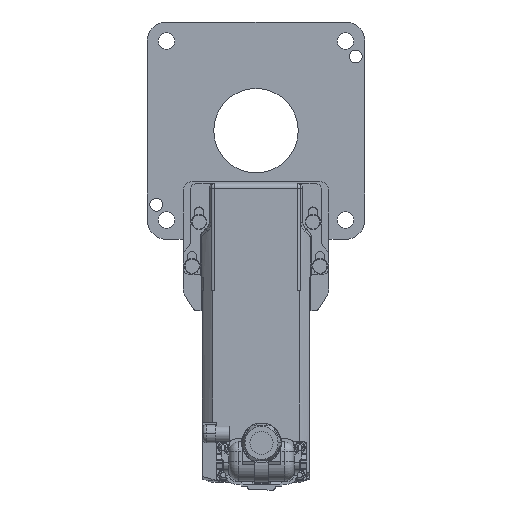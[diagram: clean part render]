
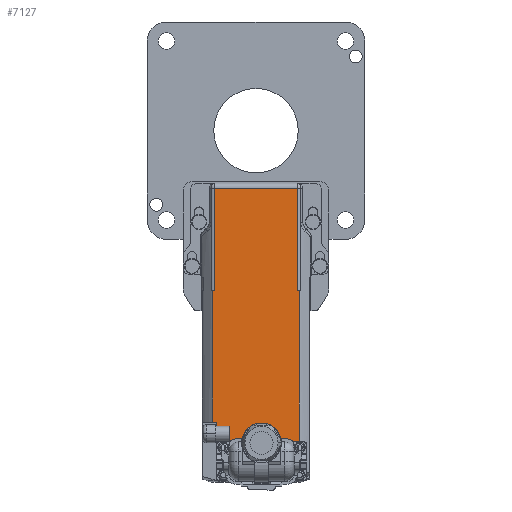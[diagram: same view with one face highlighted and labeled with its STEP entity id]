
A CAD part, front view. The second image highlights one B-rep face of the part: STEP entity #7127.
In plain terms, the highlighted planar face has unit normal (0, -1, 0).
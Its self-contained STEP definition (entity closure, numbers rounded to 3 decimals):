
#97 = ORIENTED_EDGE ( 'NONE', *, *, #7313, .F. ) ;
#338 = CARTESIAN_POINT ( 'NONE',  ( 16.971, -21., 20. ) ) ;
#356 = EDGE_CURVE ( 'NONE', #6993, #22858, #17099, .T. ) ;
#518 = VECTOR ( 'NONE', #25990, 1000. ) ;
#723 = EDGE_CURVE ( 'NONE', #5544, #14785, #12863, .T. ) ;
#1201 = EDGE_CURVE ( 'NONE', #22840, #3383, #8076, .T. ) ;
#1691 = CARTESIAN_POINT ( 'NONE',  ( -15.4, -21., -51.5 ) ) ;
#1833 = CARTESIAN_POINT ( 'NONE',  ( -10.4, -21., -53.05 ) ) ;
#1969 = CARTESIAN_POINT ( 'NONE',  ( -16.971, -21., 20. ) ) ;
#2092 = CARTESIAN_POINT ( 'NONE',  ( -16.971, -21., -51.5 ) ) ;
#2158 = LINE ( 'NONE', #6476, #23227 ) ;
#2191 = VECTOR ( 'NONE', #12323, 1000. ) ;
#2660 = VECTOR ( 'NONE', #3245, 1000. ) ;
#3245 = DIRECTION ( 'NONE',  ( -0.707, 0., 0.707 ) ) ;
#3263 = CARTESIAN_POINT ( 'NONE',  ( -15.4, -21., -53.05 ) ) ;
#3364 = EDGE_CURVE ( 'NONE', #17647, #19740, #21476, .T. ) ;
#3383 = VERTEX_POINT ( 'NONE', #9398 ) ;
#3802 = VECTOR ( 'NONE', #5980, 1000. ) ;
#3803 = LINE ( 'NONE', #4189, #518 ) ;
#4189 = CARTESIAN_POINT ( 'NONE',  ( 21., -21., 0. ) ) ;
#4240 = CARTESIAN_POINT ( 'NONE',  ( 21., -21., -59.35 ) ) ;
#4586 = VERTEX_POINT ( 'NONE', #9562 ) ;
#5475 = LINE ( 'NONE', #15315, #2660 ) ;
#5544 = VERTEX_POINT ( 'NONE', #23763 ) ;
#5699 = ORIENTED_EDGE ( 'NONE', *, *, #723, .F. ) ;
#5980 = DIRECTION ( 'NONE',  ( 0., 0., -1. ) ) ;
#6056 = CARTESIAN_POINT ( 'NONE',  ( -16.248, -21., 21.9 ) ) ;
#6364 = DIRECTION ( 'NONE',  ( -1., 0., 0. ) ) ;
#6391 = DIRECTION ( 'NONE',  ( 0., -1., 0. ) ) ;
#6476 = CARTESIAN_POINT ( 'NONE',  ( 16.248, -21., 21.9 ) ) ;
#6651 = PLANE ( 'NONE',  #7304 ) ;
#6751 = CARTESIAN_POINT ( 'NONE',  ( -15.4, -21., -51.5 ) ) ;
#6834 = CARTESIAN_POINT ( 'NONE',  ( 21., -21., 0. ) ) ;
#6993 = VERTEX_POINT ( 'NONE', #1691 ) ;
#7127 = ADVANCED_FACE ( 'NONE', ( #8741 ), #6651, .T. ) ;
#7128 = CARTESIAN_POINT ( 'NONE',  ( -15.4, -21., -51.5 ) ) ;
#7304 = AXIS2_PLACEMENT_3D ( 'NONE', #12429, #6391, #16756 ) ;
#7313 = EDGE_CURVE ( 'NONE', #16111, #5544, #5475, .T. ) ;
#7351 = VECTOR ( 'NONE', #7567, 1000. ) ;
#7567 = DIRECTION ( 'NONE',  ( -1., 0., 0. ) ) ;
#7932 = CARTESIAN_POINT ( 'NONE',  ( 16.248, -21., 40. ) ) ;
#8015 = DIRECTION ( 'NONE',  ( 0., 0., -1. ) ) ;
#8076 = LINE ( 'NONE', #338, #3802 ) ;
#8096 = EDGE_CURVE ( 'NONE', #3383, #16111, #12613, .T. ) ;
#8741 = FACE_OUTER_BOUND ( 'NONE', #9147, .T. ) ;
#9147 = EDGE_LOOP ( 'NONE', ( #10936, #18126, #22752, #25987, #17522, #15131, #22760, #15362, #5699, #97, #14499, #22547, #18706 ) ) ;
#9314 = VECTOR ( 'NONE', #18908, 1000. ) ;
#9398 = CARTESIAN_POINT ( 'NONE',  ( 16.971, -21., -59.35 ) ) ;
#9562 = CARTESIAN_POINT ( 'NONE',  ( -16.248, -21., 0. ) ) ;
#10890 = DIRECTION ( 'NONE',  ( 0., 0., 1. ) ) ;
#10936 = ORIENTED_EDGE ( 'NONE', *, *, #17798, .T. ) ;
#12240 = DIRECTION ( 'NONE',  ( -1., 0., 0. ) ) ;
#12323 = DIRECTION ( 'NONE',  ( 0., 0., 1. ) ) ;
#12383 = DIRECTION ( 'NONE',  ( 0., 0., 1. ) ) ;
#12429 = CARTESIAN_POINT ( 'NONE',  ( 0., -21., 21.9 ) ) ;
#12613 = LINE ( 'NONE', #4240, #22083 ) ;
#12650 = LINE ( 'NONE', #6751, #15035 ) ;
#12863 = LINE ( 'NONE', #20871, #18552 ) ;
#13809 = DIRECTION ( 'NONE',  ( 1., 0., 0. ) ) ;
#14214 = EDGE_CURVE ( 'NONE', #6993, #22634, #12650, .T. ) ;
#14499 = ORIENTED_EDGE ( 'NONE', *, *, #8096, .F. ) ;
#14785 = VERTEX_POINT ( 'NONE', #1833 ) ;
#15035 = VECTOR ( 'NONE', #6364, 1000. ) ;
#15123 = DIRECTION ( 'NONE',  ( 0., 0., -1. ) ) ;
#15131 = ORIENTED_EDGE ( 'NONE', *, *, #14214, .F. ) ;
#15315 = CARTESIAN_POINT ( 'NONE',  ( -9.4, -21., -59.35 ) ) ;
#15362 = ORIENTED_EDGE ( 'NONE', *, *, #18161, .T. ) ;
#15521 = LINE ( 'NONE', #23528, #16533 ) ;
#15955 = VECTOR ( 'NONE', #15123, 1000. ) ;
#16111 = VERTEX_POINT ( 'NONE', #23780 ) ;
#16533 = VECTOR ( 'NONE', #13809, 1000. ) ;
#16756 = DIRECTION ( 'NONE',  ( 1., 0., 0. ) ) ;
#17099 = LINE ( 'NONE', #7128, #15955 ) ;
#17298 = CARTESIAN_POINT ( 'NONE',  ( 16.971, -21., 0. ) ) ;
#17522 = ORIENTED_EDGE ( 'NONE', *, *, #23839, .F. ) ;
#17646 = CARTESIAN_POINT ( 'NONE',  ( 16.248, -21., 0. ) ) ;
#17647 = VERTEX_POINT ( 'NONE', #7932 ) ;
#17798 = EDGE_CURVE ( 'NONE', #24615, #17647, #2158, .T. ) ;
#17999 = LINE ( 'NONE', #6056, #21834 ) ;
#18126 = ORIENTED_EDGE ( 'NONE', *, *, #3364, .T. ) ;
#18161 = EDGE_CURVE ( 'NONE', #22858, #14785, #15521, .T. ) ;
#18238 = LINE ( 'NONE', #1969, #2191 ) ;
#18552 = VECTOR ( 'NONE', #10890, 1000. ) ;
#18706 = ORIENTED_EDGE ( 'NONE', *, *, #23615, .T. ) ;
#18908 = DIRECTION ( 'NONE',  ( -1., 0., 0. ) ) ;
#19740 = VERTEX_POINT ( 'NONE', #22166 ) ;
#20512 = CARTESIAN_POINT ( 'NONE',  ( -16.971, -21., 0. ) ) ;
#20871 = CARTESIAN_POINT ( 'NONE',  ( -10.4, -21., -75. ) ) ;
#21098 = EDGE_CURVE ( 'NONE', #19740, #4586, #17999, .T. ) ;
#21476 = LINE ( 'NONE', #25291, #7351 ) ;
#21834 = VECTOR ( 'NONE', #8015, 1000. ) ;
#21845 = VERTEX_POINT ( 'NONE', #20512 ) ;
#22083 = VECTOR ( 'NONE', #12240, 1000. ) ;
#22166 = CARTESIAN_POINT ( 'NONE',  ( -16.248, -21., 40. ) ) ;
#22547 = ORIENTED_EDGE ( 'NONE', *, *, #1201, .F. ) ;
#22581 = EDGE_CURVE ( 'NONE', #4586, #21845, #3803, .T. ) ;
#22634 = VERTEX_POINT ( 'NONE', #2092 ) ;
#22752 = ORIENTED_EDGE ( 'NONE', *, *, #21098, .T. ) ;
#22760 = ORIENTED_EDGE ( 'NONE', *, *, #356, .T. ) ;
#22840 = VERTEX_POINT ( 'NONE', #17298 ) ;
#22858 = VERTEX_POINT ( 'NONE', #3263 ) ;
#23227 = VECTOR ( 'NONE', #12383, 1000. ) ;
#23528 = CARTESIAN_POINT ( 'NONE',  ( 21., -21., -53.05 ) ) ;
#23615 = EDGE_CURVE ( 'NONE', #22840, #24615, #24817, .T. ) ;
#23763 = CARTESIAN_POINT ( 'NONE',  ( -10.4, -21., -58.35 ) ) ;
#23780 = CARTESIAN_POINT ( 'NONE',  ( -9.4, -21., -59.35 ) ) ;
#23839 = EDGE_CURVE ( 'NONE', #22634, #21845, #18238, .T. ) ;
#24615 = VERTEX_POINT ( 'NONE', #17646 ) ;
#24817 = LINE ( 'NONE', #6834, #9314 ) ;
#25291 = CARTESIAN_POINT ( 'NONE',  ( 0., -21., 40. ) ) ;
#25987 = ORIENTED_EDGE ( 'NONE', *, *, #22581, .T. ) ;
#25990 = DIRECTION ( 'NONE',  ( -1., 0., 0. ) ) ;
